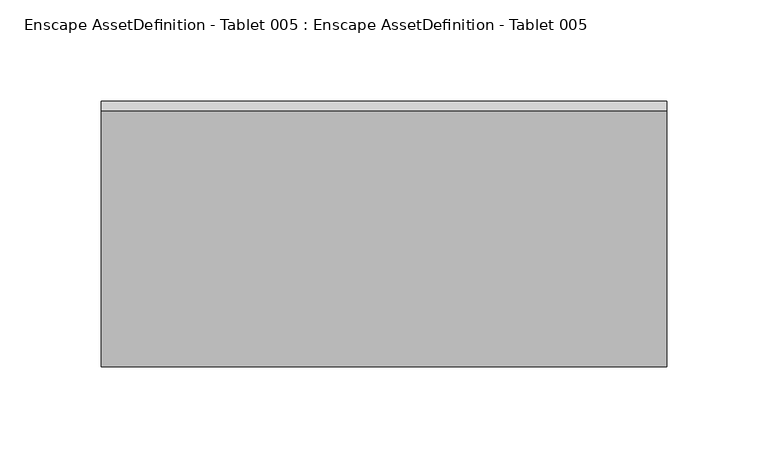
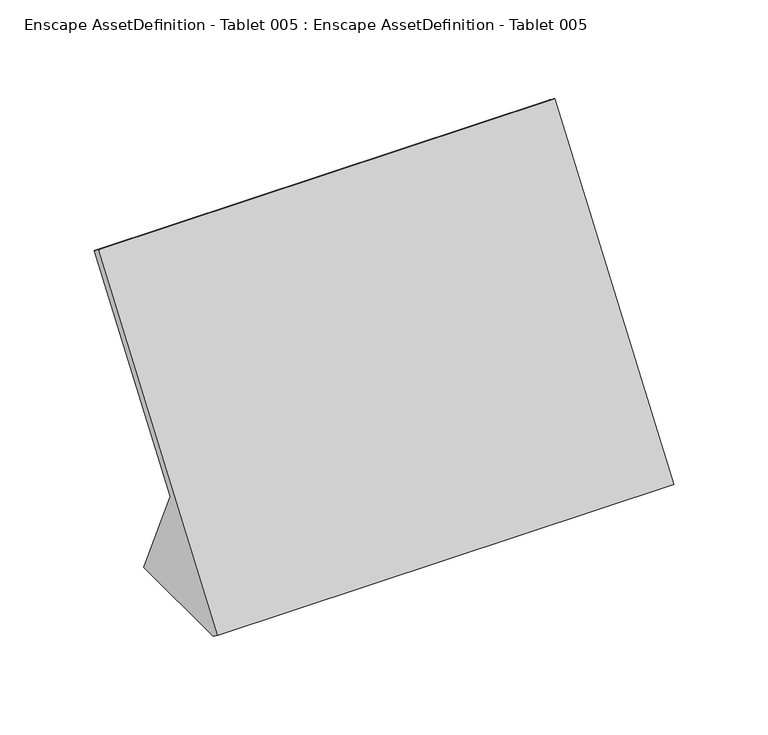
"""IFC4 building model written with IfcOpenShell, lengths in millimetres: geographic element geometry, Enscape AssetDefinition - Tablet 005 : Enscape AssetDefinition - Tablet 005."""

import ifcopenshell
import ifcopenshell.guid

model = None  # the IFC model being written
_history = None  # IfcOwnerHistory: only IFC2X3 demands one
_inside = {}  # id of a spatial element -> (the spatial element, [elements in it])
_under = {}  # id of a project, library or spatial element -> (it, [spatial elements below it])
_declared = {}  # id of a project -> (the project, [libraries it declares])
_typed = {}  # id of a type object -> (the type object, [elements of that type])
_made_of = {}  # id of a material, layer set ... -> (it, [elements and type objects made of it])


def new_model(schema):
    """Start an empty IFC model of exactly this schema.

    Asked for "IFC4X3", IfcOpenShell would pick the latest addendum, in which some entities
    have other attributes; the version numbers below select the first issue.
    IFC2X3 requires an IfcOwnerHistory on every rooted entity: one is made here for all.
    """
    global model, _history
    if schema == "IFC4X3":
        model = ifcopenshell.file(schema_version=(4, 3, 0, 0))
    else:
        model = ifcopenshell.file(schema=schema)
    _inside.clear()
    _under.clear()
    _declared.clear()
    _typed.clear()
    _made_of.clear()
    _history = None
    if model.schema == "IFC2X3":
        org = make("IfcOrganization", Name="unknown")
        user = make(
            "IfcPersonAndOrganization",
            ThePerson=make("IfcPerson", FamilyName="unknown"),
            TheOrganization=org,
        )
        app = make(
            "IfcApplication",
            ApplicationDeveloper=org,
            Version="unknown",
            ApplicationFullName="unknown",
            ApplicationIdentifier="unknown",
        )
        _history = make(
            "IfcOwnerHistory",
            OwningUser=user,
            OwningApplication=app,
            ChangeAction="ADDED",
            CreationDate=0,
        )
    return model


def make(cls, **values):
    """One entity of the class cls with the attributes given. An attribute that is None is left unset."""
    return model.create_entity(
        cls, **{name: value for name, value in values.items() if value is not None}
    )


def rooted(cls, **values):
    """An entity with a GlobalId (a new one), such as an element, a storey or a relation."""
    return make(cls, GlobalId=ifcopenshell.guid.new(), OwnerHistory=_history, **values)


def si_unit(unit_type, name, prefix=None):
    """IfcSIUnit, for example si_unit("LENGTHUNIT", "METRE", prefix="MILLI")."""
    return make("IfcSIUnit", UnitType=unit_type, Prefix=prefix, Name=name)


def assignment(units):
    """IfcUnitAssignment: the units of a project."""
    return None if units is None else make("IfcUnitAssignment", Units=units)


def point(xyz):
    """IfcCartesianPoint."""
    return None if xyz is None else make("IfcCartesianPoint", Coordinates=xyz)


def direction(xyz):
    """IfcDirection."""
    return None if xyz is None else make("IfcDirection", DirectionRatios=xyz)


def frame(location, z_axis=None, x_axis=None):
    """IfcAxis2Placement3D, a coordinate frame: its origin and axes. An axis left out is left unset."""
    return make(
        "IfcAxis2Placement3D",
        Location=point(location),
        Axis=direction(z_axis),
        RefDirection=direction(x_axis),
    )


def origin():
    """The frame at (0, 0, 0) with its axes left unset."""
    return frame((0.0, 0.0, 0.0))


def place(relative_to, where):
    """IfcLocalPlacement: puts the frame where relative to a parent placement (None: the world)."""
    return make(
        "IfcLocalPlacement", PlacementRelTo=relative_to, RelativePlacement=where
    )


def context(
    kind, dimensions, precision=None, world=None, true_north=None, identifier=None
):
    """IfcGeometricRepresentationContext, for example the 3D "Model" context."""
    return make(
        "IfcGeometricRepresentationContext",
        ContextIdentifier=identifier,
        ContextType=kind,
        CoordinateSpaceDimension=dimensions,
        Precision=precision,
        WorldCoordinateSystem=world,
        TrueNorth=true_north,
    )


def project(units=None, contexts=None):
    """IfcProject with its units and contexts."""
    return rooted(
        "IfcProject",
        Name="project",
        RepresentationContexts=contexts,
        UnitsInContext=assignment(units),
    )


def spatial(cls, under=None, at=None, **own):
    """A site, building, storey or space (cls), placed at a placement, below another one or the project."""
    s = rooted(cls, ObjectPlacement=at, **own)
    if under is not None:
        _under.setdefault(under.id(), (under, []))[1].append(s)
    return s


def point_list(points):
    """IfcCartesianPointList2D or 3D."""
    cls = (
        "IfcCartesianPointList2D" if len(points[0]) == 2 else "IfcCartesianPointList3D"
    )
    return make(cls, CoordList=points)


def triangles(points, corners, closed=None, point_numbers=None):
    """IfcTriangulatedFaceSet: each triangle names its three corners, points numbered from 1."""
    return make(
        "IfcTriangulatedFaceSet",
        Coordinates=point_list(points),
        Closed=closed,
        CoordIndex=corners,
        PnIndex=point_numbers,
    )


def shape(context_of_items, identifier, shape_type, items):
    """IfcShapeRepresentation: the items that make up one representation, for example the "Body"."""
    return make(
        "IfcShapeRepresentation",
        ContextOfItems=context_of_items,
        RepresentationIdentifier=identifier,
        RepresentationType=shape_type,
        Items=items,
    )


def source(mapping_origin, context_of_items, identifier, shape_type, items):
    """IfcRepresentationMap: a shape defined once, which mapped items show again and again."""
    return make(
        "IfcRepresentationMap",
        MappingOrigin=mapping_origin,
        MappedRepresentation=shape(context_of_items, identifier, shape_type, items),
    )


def transform(
    local_origin,
    x_axis=None,
    y_axis=None,
    z_axis=None,
    scale=None,
    scale2=None,
    scale3=None,
    uniform=True,
):
    """IfcCartesianTransformationOperator3D, or its non-uniform kind. x_axis, y_axis, z_axis: its Axis1, 2, 3."""
    if uniform:
        return make(
            "IfcCartesianTransformationOperator3D",
            Axis1=direction(x_axis),
            Axis2=direction(y_axis),
            LocalOrigin=point(local_origin),
            Scale=scale,
            Axis3=direction(z_axis),
        )
    return make(
        "IfcCartesianTransformationOperator3DnonUniform",
        Axis1=direction(x_axis),
        Axis2=direction(y_axis),
        LocalOrigin=point(local_origin),
        Scale=scale,
        Axis3=direction(z_axis),
        Scale2=scale2,
        Scale3=scale3,
    )


def mapped(mapping_source, mapping_target):
    """IfcMappedItem: shows the shape of a source again, moved by a transform."""
    return make(
        "IfcMappedItem", MappingSource=mapping_source, MappingTarget=mapping_target
    )


def made_of(thing, what):
    """Note that an element or type object is made of a material, layer set ...; save() writes the relation."""
    if what is not None:
        _made_of.setdefault(what.id(), (what, []))[1].append(thing)
    return thing


def element(
    cls,
    number,
    at=None,
    inside=None,
    cuts=None,
    type_object=None,
    material=None,
    context=None,
    identifier="Body",
    shape_type=None,
    held_by="IfcProductDefinitionShape",
    body=None,
    shapes=None,
    **own,
):
    """One element of the class cls, such as IfcWall. Its Tag is "e" and its number.

    at: its placement. inside: the storey or other place that contains it. cuts: it is an
    opening in that element (IfcRelVoidsElement). A single representation is given by context,
    identifier, shape_type and body (its items); several are given by shapes. held_by: the class
    of the entity that holds the representations. save() writes the other relations.
    """
    e = rooted(cls, Tag="e%d" % number, ObjectPlacement=at, **own)
    if body is not None:
        shapes = [shape(context, identifier, shape_type, body)]
    if shapes is not None:
        e.Representation = make(held_by, Representations=shapes)
    if inside is not None:
        _inside.setdefault(inside.id(), (inside, []))[1].append(e)
    if cuts is not None:
        rooted(
            "IfcRelVoidsElement", RelatingBuildingElement=cuts, RelatedOpeningElement=e
        )
    if type_object is not None:
        _typed.setdefault(type_object.id(), (type_object, []))[1].append(e)
    return made_of(e, material)


def aggregate(whole, parts):
    """IfcRelAggregates: a whole, such as a stair, and the parts it consists of."""
    return rooted("IfcRelAggregates", RelatingObject=whole, RelatedObjects=parts)


def save(model, path):
    """Write the relations noted so far, then the file.

    IfcRelAggregates (storeys below a building ...), IfcRelContainedInSpatialStructure (elements
    in a storey), IfcRelDefinesByType, IfcRelAssociatesMaterial and IfcRelDeclares: one each for
    every whole, place, type object, material and project.
    """
    for whole, parts in _under.values():
        aggregate(whole, parts)
    for where, things in _inside.values():
        rooted(
            "IfcRelContainedInSpatialStructure",
            RelatedElements=things,
            RelatingStructure=where,
        )
    for kind, things in _typed.values():
        rooted("IfcRelDefinesByType", RelatedObjects=things, RelatingType=kind)
    for what, things in _made_of.values():
        rooted("IfcRelAssociatesMaterial", RelatedObjects=things, RelatingMaterial=what)
    for by, libraries in _declared.values():
        rooted("IfcRelDeclares", RelatingContext=by, RelatedDefinitions=libraries)
    model.write(path)


def enscape_assetdefinition_tablet_005_enscape_assetdefinition_b19993bc(model_context):
    return source(origin(), model_context, "Body", "Tessellation", [
        triangles([(140.0000029, -35.1199993, 0.0), (-140.0000029, 10.7150005, 62.9310016), (-140.0000029, 91.4560001, 173.791009), (140.0000029, 91.4560001, 173.791009), (140.0000029, 86.6060055, 177.3240056), (-140.0000029, -39.9699985, 3.5319999), (140.0000029, 38.485001, 0.0), (-140.0000029, -35.1199993, 0.0), (-140.0000029, 38.485001, 0.0), (-140.0000029, 86.6060055, 177.3240056), (140.0000029, -39.9699985, 3.5319999), (140.0000029, 10.7150005, 62.9310016)], [[9, 2, 12], [5, 11, 12], [8, 9, 7], [10, 6, 11], [3, 4, 12], [10, 5, 4], [2, 6, 10], [11, 6, 8], [8, 2, 9], [12, 1, 7], [9, 12, 7], [8, 6, 2], [5, 12, 4], [8, 7, 1], [10, 11, 5], [3, 12, 2], [12, 11, 1], [10, 4, 3], [2, 10, 3], [11, 8, 1]]),
    ])


if __name__ == "__main__":
    model = new_model("IFC4")
    model_context = context("Model", 3, world=origin())
    ifc_project = project(units=[si_unit("LENGTHUNIT", "METRE", prefix="MILLI")], contexts=[model_context])
    site = spatial("IfcSite", under=ifc_project)
    building = spatial("IfcBuilding", under=site)
    placement = place(None, origin())
    enscape_assetdefinition_tablet_005_enscape_assetdefinition_shape = enscape_assetdefinition_tablet_005_enscape_assetdefinition_b19993bc(model_context)
    element("IfcGeographicElement", 1, ObjectType="Enscape AssetDefinition - Tablet 005 : Enscape AssetDefinition - Tablet 005", at=placement, inside=building, context=model_context, shape_type="MappedRepresentation", body=[
        mapped(enscape_assetdefinition_tablet_005_enscape_assetdefinition_shape, transform((0.0, 0.0, 0.0), x_axis=(1.0, 0.0, 0.0), y_axis=(0.0, 1.0, 0.0), z_axis=(0.0, 0.0, 1.0))),
    ])
    save(model, "model.ifc")
